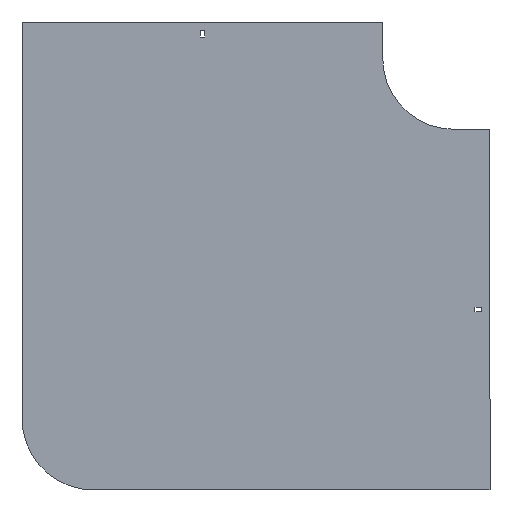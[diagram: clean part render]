
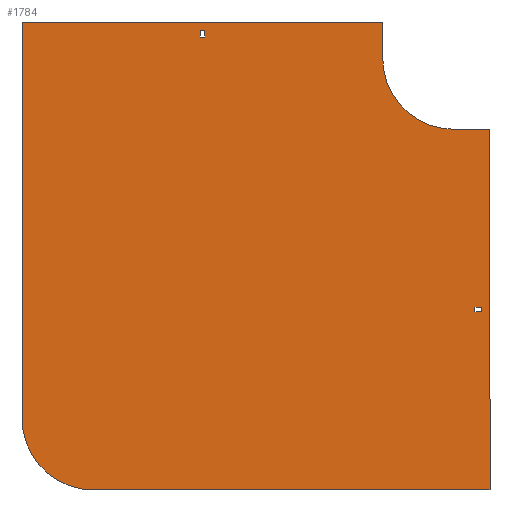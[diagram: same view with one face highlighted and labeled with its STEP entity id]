
A CAD part, front view. The second image highlights one B-rep face of the part: STEP entity #1784.
In plain terms, the highlighted planar face has unit normal (0, -1, 0).
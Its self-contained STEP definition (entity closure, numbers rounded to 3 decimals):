
#11 = VERTEX_POINT ( 'NONE', #499 ) ;
#23 = VERTEX_POINT ( 'NONE', #1563 ) ;
#44 = VERTEX_POINT ( 'NONE', #793 ) ;
#50 = DIRECTION ( 'NONE',  ( 0., -1., 0. ) ) ;
#65 = DIRECTION ( 'NONE',  ( 0., 0., 1. ) ) ;
#69 = EDGE_CURVE ( 'NONE', #484, #203, #735, .T. ) ;
#70 = CARTESIAN_POINT ( 'NONE',  ( -348.75, 0., 29. ) ) ;
#84 = ORIENTED_EDGE ( 'NONE', *, *, #92, .F. ) ;
#92 = EDGE_CURVE ( 'NONE', #44, #23, #1334, .T. ) ;
#101 = ORIENTED_EDGE ( 'NONE', *, *, #1204, .F. ) ;
#102 = EDGE_CURVE ( 'NONE', #1444, #1338, #301, .T. ) ;
#118 = EDGE_CURVE ( 'NONE', #217, #573, #1175, .T. ) ;
#143 = AXIS2_PLACEMENT_3D ( 'NONE', #1075, #50, #1536 ) ;
#175 = VECTOR ( 'NONE', #1119, 1000. ) ;
#193 = VECTOR ( 'NONE', #1049, 1000. ) ;
#194 = ORIENTED_EDGE ( 'NONE', *, *, #949, .F. ) ;
#203 = VERTEX_POINT ( 'NONE', #694 ) ;
#217 = VERTEX_POINT ( 'NONE', #1472 ) ;
#223 = VERTEX_POINT ( 'NONE', #407 ) ;
#258 = DIRECTION ( 'NONE',  ( 1., 0., 0. ) ) ;
#301 = LINE ( 'NONE', #1359, #913 ) ;
#335 = CARTESIAN_POINT ( 'NONE',  ( -100., 0., 0. ) ) ;
#388 = ORIENTED_EDGE ( 'NONE', *, *, #561, .F. ) ;
#402 = CARTESIAN_POINT ( 'NONE',  ( 50., 0., -604. ) ) ;
#407 = CARTESIAN_POINT ( 'NONE',  ( 50., 0., -604. ) ) ;
#422 = CARTESIAN_POINT ( 'NONE',  ( -355.25, 0., 29. ) ) ;
#423 = DIRECTION ( 'NONE',  ( 0., 0., 1. ) ) ;
#434 = ORIENTED_EDGE ( 'NONE', *, *, #1603, .F. ) ;
#441 = DIRECTION ( 'NONE',  ( 1., 0., 0. ) ) ;
#446 = EDGE_CURVE ( 'NONE', #11, #484, #519, .T. ) ;
#471 = ORIENTED_EDGE ( 'NONE', *, *, #839, .F. ) ;
#475 = FACE_BOUND ( 'NONE', #1500, .T. ) ;
#484 = VERTEX_POINT ( 'NONE', #1761 ) ;
#492 = DIRECTION ( 'NONE',  ( 0., 0., 1. ) ) ;
#499 = CARTESIAN_POINT ( 'NONE',  ( -348.75, 0., 38. ) ) ;
#519 = LINE ( 'NONE', #70, #1709 ) ;
#536 = EDGE_CURVE ( 'NONE', #1579, #11, #1625, .T. ) ;
#551 = DIRECTION ( 'NONE',  ( 0., 0., -1. ) ) ;
#561 = EDGE_CURVE ( 'NONE', #23, #1444, #1325, .T. ) ;
#573 = VERTEX_POINT ( 'NONE', #1341 ) ;
#575 = CARTESIAN_POINT ( 'NONE',  ( 29., 0., -348.75 ) ) ;
#598 = DIRECTION ( 'NONE',  ( -1., 0., 0. ) ) ;
#637 = ORIENTED_EDGE ( 'NONE', *, *, #869, .F. ) ;
#649 = LINE ( 'NONE', #812, #1407 ) ;
#650 = CIRCLE ( 'NONE', #720, 100. ) ;
#665 = LINE ( 'NONE', #1734, #1061 ) ;
#675 = ORIENTED_EDGE ( 'NONE', *, *, #1052, .F. ) ;
#694 = CARTESIAN_POINT ( 'NONE',  ( -355.25, 0., 29. ) ) ;
#713 = ORIENTED_EDGE ( 'NONE', *, *, #1888, .T. ) ;
#720 = AXIS2_PLACEMENT_3D ( 'NONE', #1793, #721, #423 ) ;
#721 = DIRECTION ( 'NONE',  ( 0., 1., 0. ) ) ;
#735 = LINE ( 'NONE', #422, #1900 ) ;
#767 = ORIENTED_EDGE ( 'NONE', *, *, #102, .F. ) ;
#793 = CARTESIAN_POINT ( 'NONE',  ( 38., 0., -348.75 ) ) ;
#803 = CARTESIAN_POINT ( 'NONE',  ( -100., 0., 50. ) ) ;
#812 = CARTESIAN_POINT ( 'NONE',  ( -604., 0., -504. ) ) ;
#839 = EDGE_CURVE ( 'NONE', #223, #1484, #1633, .T. ) ;
#849 = VERTEX_POINT ( 'NONE', #861 ) ;
#861 = CARTESIAN_POINT ( 'NONE',  ( 50., 0., -100. ) ) ;
#869 = EDGE_CURVE ( 'NONE', #849, #223, #1769, .T. ) ;
#877 = EDGE_CURVE ( 'NONE', #1728, #1279, #946, .T. ) ;
#890 = ORIENTED_EDGE ( 'NONE', *, *, #69, .T. ) ;
#895 = DIRECTION ( 'NONE',  ( 0., 0., -1. ) ) ;
#896 = ORIENTED_EDGE ( 'NONE', *, *, #877, .F. ) ;
#897 = DIRECTION ( 'NONE',  ( 0., 0., -1. ) ) ;
#913 = VECTOR ( 'NONE', #441, 1000. ) ;
#946 = CIRCLE ( 'NONE', #1951, 100. ) ;
#948 = FACE_OUTER_BOUND ( 'NONE', #1394, .T. ) ;
#949 = EDGE_CURVE ( 'NONE', #1279, #849, #1236, .T. ) ;
#954 = DIRECTION ( 'NONE',  ( 1., 0., 0. ) ) ;
#965 = EDGE_CURVE ( 'NONE', #1338, #44, #665, .T. ) ;
#978 = ORIENTED_EDGE ( 'NONE', *, *, #965, .F. ) ;
#981 = CARTESIAN_POINT ( 'NONE',  ( 0., 0., -100. ) ) ;
#1038 = CARTESIAN_POINT ( 'NONE',  ( -504., 0., -604. ) ) ;
#1049 = DIRECTION ( 'NONE',  ( -1., 0., 0. ) ) ;
#1052 = EDGE_CURVE ( 'NONE', #573, #1728, #1753, .T. ) ;
#1061 = VECTOR ( 'NONE', #65, 1000. ) ;
#1064 = CARTESIAN_POINT ( 'NONE',  ( 0., 0., 0. ) ) ;
#1075 = CARTESIAN_POINT ( 'NONE',  ( 0., 0., 0. ) ) ;
#1086 = CARTESIAN_POINT ( 'NONE',  ( 0., 0., -100. ) ) ;
#1093 = VECTOR ( 'NONE', #258, 1000. ) ;
#1119 = DIRECTION ( 'NONE',  ( 0., 0., 1. ) ) ;
#1129 = CARTESIAN_POINT ( 'NONE',  ( -355.25, 0., 29. ) ) ;
#1155 = CARTESIAN_POINT ( 'NONE',  ( 50., 0., -100. ) ) ;
#1161 = VECTOR ( 'NONE', #1662, 1000. ) ;
#1175 = LINE ( 'NONE', #1827, #1161 ) ;
#1193 = ORIENTED_EDGE ( 'NONE', *, *, #446, .T. ) ;
#1204 = EDGE_CURVE ( 'NONE', #1484, #1399, #650, .T. ) ;
#1236 = LINE ( 'NONE', #1086, #1256 ) ;
#1256 = VECTOR ( 'NONE', #954, 1000. ) ;
#1279 = VERTEX_POINT ( 'NONE', #981 ) ;
#1295 = CARTESIAN_POINT ( 'NONE',  ( 29., 0., -355.25 ) ) ;
#1299 = CARTESIAN_POINT ( 'NONE',  ( -355.25, 0., 38. ) ) ;
#1322 = DIRECTION ( 'NONE',  ( -1., 0., 0. ) ) ;
#1325 = LINE ( 'NONE', #1792, #1348 ) ;
#1334 = LINE ( 'NONE', #575, #193 ) ;
#1338 = VERTEX_POINT ( 'NONE', #1735 ) ;
#1341 = CARTESIAN_POINT ( 'NONE',  ( -100., 0., 50. ) ) ;
#1348 = VECTOR ( 'NONE', #897, 1000. ) ;
#1359 = CARTESIAN_POINT ( 'NONE',  ( 29., 0., -355.25 ) ) ;
#1368 = PLANE ( 'NONE',  #143 ) ;
#1394 = EDGE_LOOP ( 'NONE', ( #1447, #434, #101, #471, #637, #194, #896, #675 ) ) ;
#1399 = VERTEX_POINT ( 'NONE', #1925 ) ;
#1407 = VECTOR ( 'NONE', #492, 1000. ) ;
#1408 = CARTESIAN_POINT ( 'NONE',  ( -355.25, 0., 38. ) ) ;
#1416 = DIRECTION ( 'NONE',  ( 0., 0., -1. ) ) ;
#1444 = VERTEX_POINT ( 'NONE', #1295 ) ;
#1447 = ORIENTED_EDGE ( 'NONE', *, *, #118, .F. ) ;
#1458 = VECTOR ( 'NONE', #1782, 1000. ) ;
#1472 = CARTESIAN_POINT ( 'NONE',  ( -604., 0., 50. ) ) ;
#1484 = VERTEX_POINT ( 'NONE', #1038 ) ;
#1500 = EDGE_LOOP ( 'NONE', ( #978, #767, #388, #84 ) ) ;
#1536 = DIRECTION ( 'NONE',  ( 0., 0., -1. ) ) ;
#1550 = ORIENTED_EDGE ( 'NONE', *, *, #536, .T. ) ;
#1563 = CARTESIAN_POINT ( 'NONE',  ( 29., 0., -348.75 ) ) ;
#1579 = VERTEX_POINT ( 'NONE', #1408 ) ;
#1590 = EDGE_LOOP ( 'NONE', ( #713, #1550, #1193, #890 ) ) ;
#1603 = EDGE_CURVE ( 'NONE', #1399, #217, #649, .T. ) ;
#1619 = VECTOR ( 'NONE', #1416, 1000. ) ;
#1625 = LINE ( 'NONE', #1299, #1093 ) ;
#1633 = LINE ( 'NONE', #402, #1652 ) ;
#1652 = VECTOR ( 'NONE', #1322, 1000. ) ;
#1662 = DIRECTION ( 'NONE',  ( 1., 0., 0. ) ) ;
#1709 = VECTOR ( 'NONE', #551, 1000. ) ;
#1717 = LINE ( 'NONE', #1129, #175 ) ;
#1728 = VERTEX_POINT ( 'NONE', #335 ) ;
#1734 = CARTESIAN_POINT ( 'NONE',  ( 38., 0., -355.25 ) ) ;
#1735 = CARTESIAN_POINT ( 'NONE',  ( 38., 0., -355.25 ) ) ;
#1753 = LINE ( 'NONE', #803, #1619 ) ;
#1761 = CARTESIAN_POINT ( 'NONE',  ( -348.75, 0., 29. ) ) ;
#1769 = LINE ( 'NONE', #1155, #1458 ) ;
#1782 = DIRECTION ( 'NONE',  ( 0., 0., -1. ) ) ;
#1784 = ADVANCED_FACE ( 'NONE', ( #1844, #948, #475 ), #1368, .T. ) ;
#1792 = CARTESIAN_POINT ( 'NONE',  ( 29., 0., -355.25 ) ) ;
#1793 = CARTESIAN_POINT ( 'NONE',  ( -504., 0., -504. ) ) ;
#1827 = CARTESIAN_POINT ( 'NONE',  ( -604., 0., 50. ) ) ;
#1844 = FACE_BOUND ( 'NONE', #1590, .T. ) ;
#1888 = EDGE_CURVE ( 'NONE', #203, #1579, #1717, .T. ) ;
#1900 = VECTOR ( 'NONE', #598, 1000. ) ;
#1925 = CARTESIAN_POINT ( 'NONE',  ( -604., 0., -504. ) ) ;
#1934 = DIRECTION ( 'NONE',  ( 0., -1., 0. ) ) ;
#1951 = AXIS2_PLACEMENT_3D ( 'NONE', #1064, #1934, #895 ) ;
